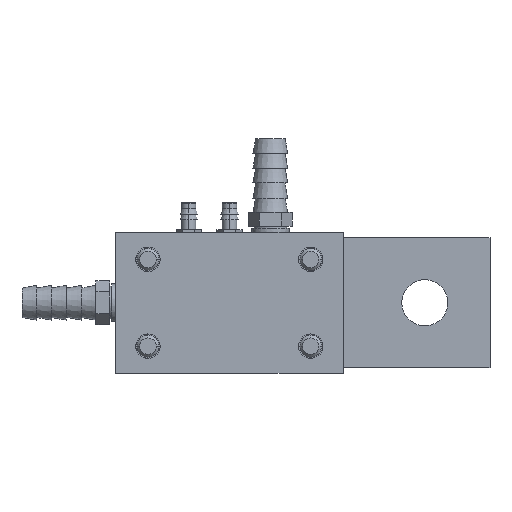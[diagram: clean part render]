
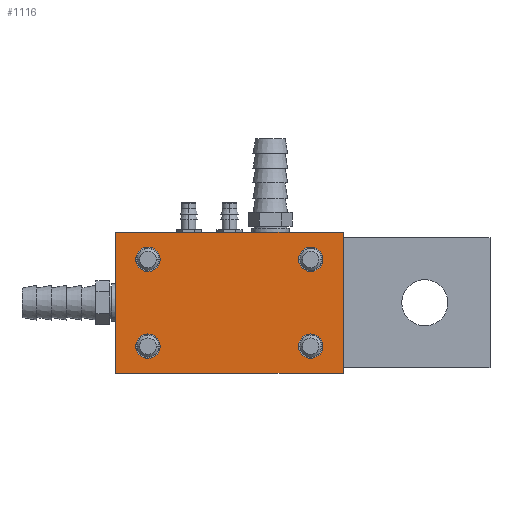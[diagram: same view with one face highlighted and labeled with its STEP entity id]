
A CAD part, left-side view. The second image highlights one B-rep face of the part: STEP entity #1116.
In plain terms, the highlighted planar face has unit normal (-1, 0, 0).
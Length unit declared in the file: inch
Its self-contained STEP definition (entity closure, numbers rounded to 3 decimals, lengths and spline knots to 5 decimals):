
#851=CARTESIAN_POINT('',(-3.1875,-0.935,-0.5));
#852=DIRECTION('',(1.,0.,0.));
#853=DIRECTION('',(0.,-1.,0.));
#854=AXIS2_PLACEMENT_3D('',#851,#852,#853);
#856=CARTESIAN_POINT('',(-3.1875,-0.935,-0.5));
#857=DIRECTION('',(1.,0.,0.));
#858=DIRECTION('',(0.,1.,0.));
#859=AXIS2_PLACEMENT_3D('',#856,#857,#858);
#861=CARTESIAN_POINT('',(-3.1875,-0.935,0.5));
#862=DIRECTION('',(1.,0.,0.));
#863=DIRECTION('',(0.,-1.,0.));
#864=AXIS2_PLACEMENT_3D('',#861,#862,#863);
#866=CARTESIAN_POINT('',(-3.1875,-0.935,0.5));
#867=DIRECTION('',(1.,0.,0.));
#868=DIRECTION('',(0.,1.,0.));
#869=AXIS2_PLACEMENT_3D('',#866,#867,#868);
#871=CARTESIAN_POINT('',(-3.1875,0.94,-0.5));
#872=DIRECTION('',(1.,0.,0.));
#873=DIRECTION('',(0.,-1.,0.));
#874=AXIS2_PLACEMENT_3D('',#871,#872,#873);
#876=CARTESIAN_POINT('',(-3.1875,0.94,-0.5));
#877=DIRECTION('',(1.,0.,0.));
#878=DIRECTION('',(0.,1.,0.));
#879=AXIS2_PLACEMENT_3D('',#876,#877,#878);
#881=CARTESIAN_POINT('',(-3.1875,0.94,0.5));
#882=DIRECTION('',(1.,0.,0.));
#883=DIRECTION('',(0.,-1.,0.));
#884=AXIS2_PLACEMENT_3D('',#881,#882,#883);
#886=CARTESIAN_POINT('',(-3.1875,0.94,0.5));
#887=DIRECTION('',(1.,0.,0.));
#888=DIRECTION('',(0.,1.,0.));
#889=AXIS2_PLACEMENT_3D('',#886,#887,#888);
#919=DIRECTION('',(0.,-1.,0.));
#920=VECTOR('',#919,2.625);
#921=CARTESIAN_POINT('',(-3.1875,1.315,0.8125));
#922=LINE('',#921,#920);
#927=DIRECTION('',(0.,0.,-1.));
#928=VECTOR('',#927,1.625);
#929=CARTESIAN_POINT('',(-3.1875,-1.31,0.8125));
#930=LINE('',#929,#928);
#939=DIRECTION('',(0.,1.,0.));
#940=VECTOR('',#939,2.625);
#941=CARTESIAN_POINT('',(-3.1875,-1.31,-0.8125));
#942=LINE('',#941,#940);
#955=DIRECTION('',(0.,0.,1.));
#956=VECTOR('',#955,1.625);
#957=CARTESIAN_POINT('',(-3.1875,1.315,-0.8125));
#958=LINE('',#957,#956);
#969=CARTESIAN_POINT('',(-3.1875,1.315,-0.8125));
#970=VERTEX_POINT('',#969);
#971=CARTESIAN_POINT('',(-3.1875,1.315,0.8125));
#972=VERTEX_POINT('',#971);
#975=CARTESIAN_POINT('',(-3.1875,-1.31,-0.8125));
#976=VERTEX_POINT('',#975);
#977=CARTESIAN_POINT('',(-3.1875,-1.31,0.8125));
#978=VERTEX_POINT('',#977);
#979=CARTESIAN_POINT('',(-3.1875,-1.07563,-0.5));
#981=VERTEX_POINT('',#979);
#983=CARTESIAN_POINT('',(-3.1875,-0.79438,-0.5));
#985=VERTEX_POINT('',#983);
#987=CARTESIAN_POINT('',(-3.1875,-1.07563,0.5));
#989=VERTEX_POINT('',#987);
#991=CARTESIAN_POINT('',(-3.1875,-0.79438,0.5));
#993=VERTEX_POINT('',#991);
#995=CARTESIAN_POINT('',(-3.1875,0.79938,-0.5));
#997=VERTEX_POINT('',#995);
#999=CARTESIAN_POINT('',(-3.1875,1.08063,-0.5));
#1001=VERTEX_POINT('',#999);
#1003=CARTESIAN_POINT('',(-3.1875,0.79938,0.5));
#1005=VERTEX_POINT('',#1003);
#1007=CARTESIAN_POINT('',(-3.1875,1.08063,0.5));
#1009=VERTEX_POINT('',#1007);
#1079=CARTESIAN_POINT('',(-3.1875,0.0025,0.));
#1080=DIRECTION('',(-1.,0.,0.));
#1081=DIRECTION('',(0.,1.,0.));
#1082=AXIS2_PLACEMENT_3D('',#1079,#1080,#1081);
#1083=PLANE('',#1082);
#1085=ORIENTED_EDGE('',*,*,#1084,.T.);
#1087=ORIENTED_EDGE('',*,*,#1086,.T.);
#1089=ORIENTED_EDGE('',*,*,#1088,.T.);
#1091=ORIENTED_EDGE('',*,*,#1090,.T.);
#1092=EDGE_LOOP('',(#1085,#1087,#1089,#1091));
#1093=FACE_OUTER_BOUND('',#1092,.F.);
#1095=ORIENTED_EDGE('',*,*,#1094,.F.);
#1097=ORIENTED_EDGE('',*,*,#1096,.F.);
#1098=EDGE_LOOP('',(#1095,#1097));
#1099=FACE_BOUND('',#1098,.F.);
#1101=ORIENTED_EDGE('',*,*,#1100,.F.);
#1103=ORIENTED_EDGE('',*,*,#1102,.F.);
#1104=EDGE_LOOP('',(#1101,#1103));
#1105=FACE_BOUND('',#1104,.F.);
#1107=ORIENTED_EDGE('',*,*,#1106,.F.);
#1109=ORIENTED_EDGE('',*,*,#1108,.F.);
#1110=EDGE_LOOP('',(#1107,#1109));
#1111=FACE_BOUND('',#1110,.F.);
#1112=ORIENTED_EDGE('',*,*,#1020,.F.);
#1113=ORIENTED_EDGE('',*,*,#1073,.F.);
#1114=EDGE_LOOP('',(#1112,#1113));
#1115=FACE_BOUND('',#1114,.F.);
#855=CIRCLE('',#854,0.14063);
#860=CIRCLE('',#859,0.14063);
#865=CIRCLE('',#864,0.14063);
#870=CIRCLE('',#869,0.14063);
#875=CIRCLE('',#874,0.14063);
#880=CIRCLE('',#879,0.14063);
#885=CIRCLE('',#884,0.14063);
#890=CIRCLE('',#889,0.14063);
#1020=EDGE_CURVE('',#981,#985,#855,.T.);
#1073=EDGE_CURVE('',#985,#981,#860,.T.);
#1084=EDGE_CURVE('',#972,#978,#922,.T.);
#1086=EDGE_CURVE('',#978,#976,#930,.T.);
#1088=EDGE_CURVE('',#976,#970,#942,.T.);
#1090=EDGE_CURVE('',#970,#972,#958,.T.);
#1094=EDGE_CURVE('',#989,#993,#865,.T.);
#1096=EDGE_CURVE('',#993,#989,#870,.T.);
#1100=EDGE_CURVE('',#997,#1001,#875,.T.);
#1102=EDGE_CURVE('',#1001,#997,#880,.T.);
#1106=EDGE_CURVE('',#1005,#1009,#885,.T.);
#1108=EDGE_CURVE('',#1009,#1005,#890,.T.);
#1116=ADVANCED_FACE('',(#1093,#1099,#1105,#1111,#1115),#1083,.T.);
